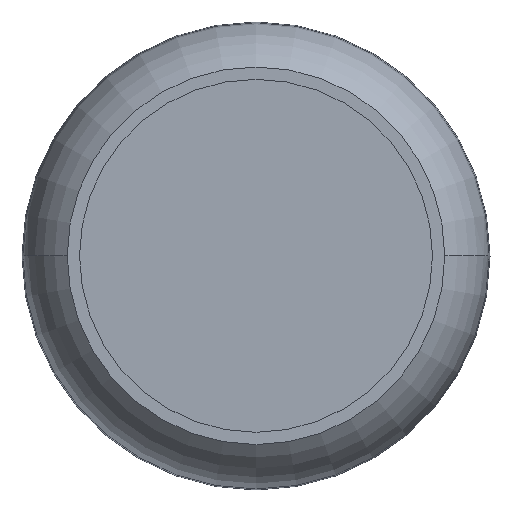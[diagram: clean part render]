
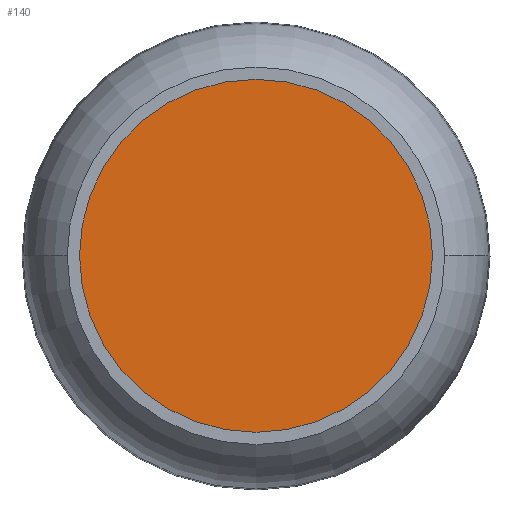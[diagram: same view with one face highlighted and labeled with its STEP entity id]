
A CAD part, top view. The second image highlights one B-rep face of the part: STEP entity #140.
In plain terms, the highlighted planar face has unit normal (0, 0, 1).
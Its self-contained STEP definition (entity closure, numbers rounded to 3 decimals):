
#140 = ADVANCED_FACE( '', ( #278 ), #279, .T. );
#278 = FACE_OUTER_BOUND( '', #416, .T. );
#279 = PLANE( '', #417 );
#416 = EDGE_LOOP( '', ( #951, #952 ) );
#417 = AXIS2_PLACEMENT_3D( '', #953, #954, #955 );
#951 = ORIENTED_EDGE( '', *, *, #959, .T. );
#952 = ORIENTED_EDGE( '', *, *, #1125, .T. );
#953 = CARTESIAN_POINT( '', ( 0., 5.6, 29. ) );
#954 = DIRECTION( '', ( 0., 0., 1. ) );
#955 = DIRECTION( '', ( 0., 1., 0. ) );
#959 = EDGE_CURVE( '', #1127, #1131, #1133, .T. );
#1125 = EDGE_CURVE( '', #1131, #1127, #1407, .T. );
#1127 = VERTEX_POINT( '', #1409 );
#1131 = VERTEX_POINT( '', #1414 );
#1133 = CIRCLE( '', #1417, 11.2 );
#1407 = CIRCLE( '', #1911, 11.2 );
#1409 = CARTESIAN_POINT( '', ( 0., 11.2, 29. ) );
#1414 = CARTESIAN_POINT( '', ( 0., -11.2, 29. ) );
#1417 = AXIS2_PLACEMENT_3D( '', #1917, #1918, #1919 );
#1911 = AXIS2_PLACEMENT_3D( '', #2221, #2222, #2223 );
#1917 = CARTESIAN_POINT( '', ( 0., 0., 29. ) );
#1918 = DIRECTION( '', ( 0., 0., 1. ) );
#1919 = DIRECTION( '', ( 0., 1., 0. ) );
#2221 = CARTESIAN_POINT( '', ( 0., 0., 29. ) );
#2222 = DIRECTION( '', ( 0., 0., 1. ) );
#2223 = DIRECTION( '', ( 0., 1., 0. ) );
